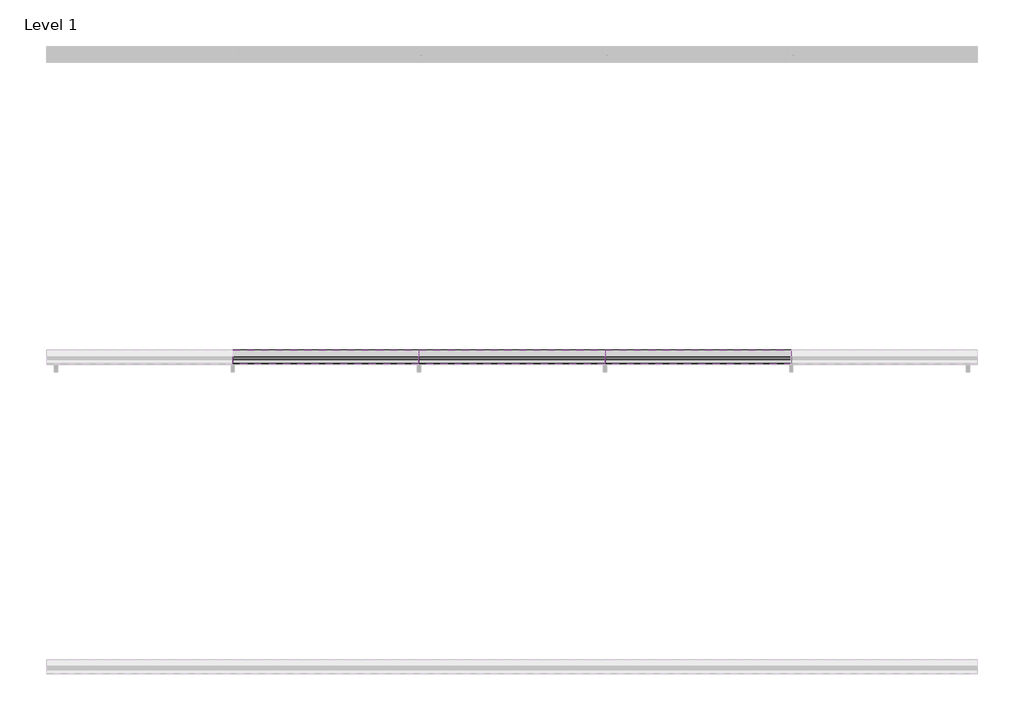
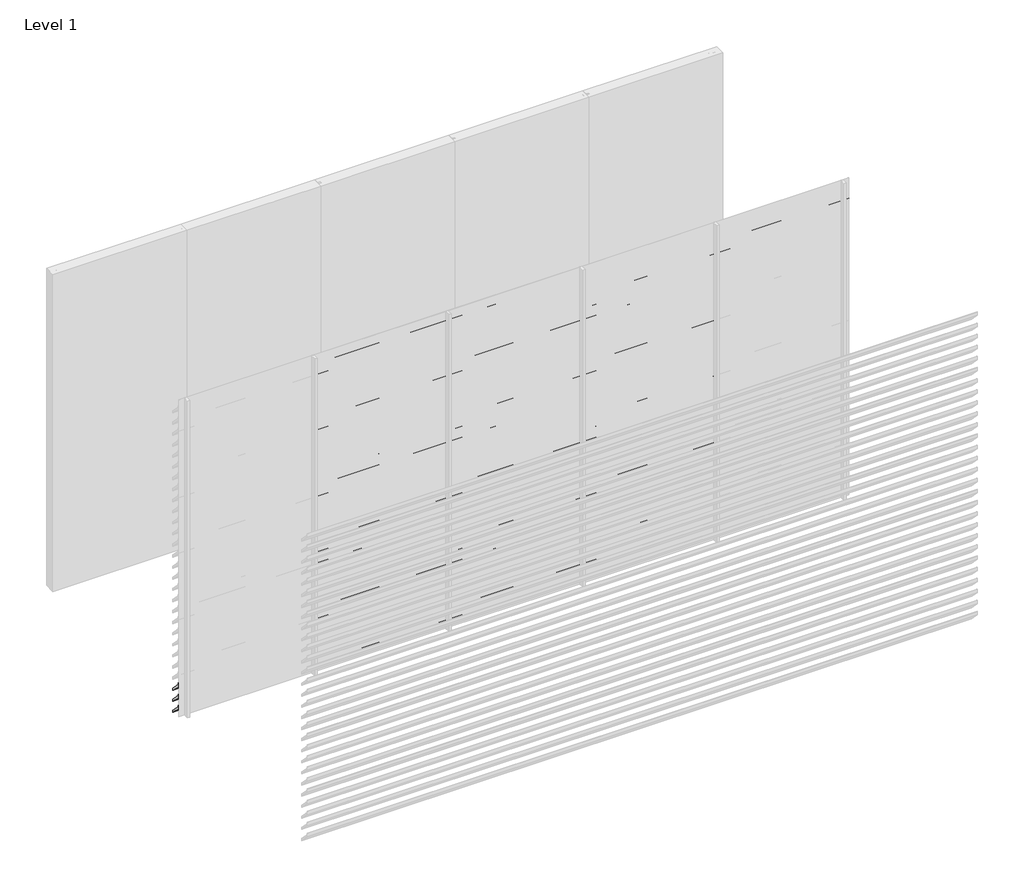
# One storey, part 6 of 8: 92 proxies.
"""IFC4 building model written with IfcOpenShell, lengths in millimetres."""

from ifc_helpers import new_model, si_unit, frame, origin, place, context, project, spatial, polyline, outline, extrude, element, save

model = new_model("IFC4")

# Units and contexts
model_context = context("Model", 3, world=origin())
ifc_project = project(units=[si_unit("LENGTHUNIT", "METRE", prefix="MILLI")], contexts=[model_context])

# Site, building, storey
site = spatial("IfcSite", under=ifc_project)
building = spatial("IfcBuilding", under=site)
storey = spatial("IfcBuildingStorey", under=building, Name="Level 1", Elevation=0.0)

# Proxies
placement = place(None, origin())
element("IfcBuildingElementProxy", 1, Name="Wall Sweeps", at=placement, inside=storey, context=model_context, shape_type="SweptSolid", body=[
    extrude(outline(polyline([(-5995.0, 315.0), (-5995.0, 302.0), (-5907.0, 214.0), (-5907.0, 193.0), (-5997.0, 283.0), (-5997.0, 315.0), (-5995.0, 315.0)])), frame((0.0, 0.0, 0.0), z_axis=(1.0, 0.0, 0.0), x_axis=(0.0, 1.0, 0.0)), (0.0, 0.0, 1.0), 1200.0),
])
element("IfcBuildingElementProxy", 2, Name="Wall Sweeps", at=placement, inside=storey, context=model_context, shape_type="SweptSolid", body=[
    extrude(outline(polyline([(-5995.0, 210.0), (-5995.0, 197.0), (-5907.0, 109.0), (-5907.0, 88.0), (-5997.0, 178.0), (-5997.0, 210.0), (-5995.0, 210.0)])), frame((0.0, 0.0, 0.0), z_axis=(1.0, 0.0, 0.0), x_axis=(0.0, 1.0, 0.0)), (0.0, 0.0, 1.0), 1200.0),
])
element("IfcBuildingElementProxy", 3, Name="Wall Sweeps", at=placement, inside=storey, context=model_context, shape_type="SweptSolid", body=[
    extrude(outline(polyline([(-5995.0, 105.0), (-5995.0, 92.0), (-5907.0, 4.0), (-5907.0, -17.0), (-5997.0, 73.0), (-5997.0, 105.0), (-5995.0, 105.0)])), frame((0.0, 0.0, 0.0), z_axis=(1.0, 0.0, 0.0), x_axis=(0.0, 1.0, 0.0)), (0.0, 0.0, 1.0), 1200.0),
])
element("IfcBuildingElementProxy", 4, Name="Wall Sweeps", at=placement, inside=storey, context=model_context, shape_type="SweptSolid", body=[
    extrude(outline(polyline([(-5995.0, 2940.0), (-5995.0, 2927.0), (-5907.0, 2839.0), (-5907.0, 2818.0), (-5997.0, 2908.0), (-5997.0, 2940.0), (-5995.0, 2940.0)])), frame((1200.0, 0.0, 0.0), z_axis=(1.0, 0.0, 0.0), x_axis=(0.0, 1.0, 0.0)), (0.0, 0.0, 1.0), 1200.0),
])
element("IfcBuildingElementProxy", 5, Name="Wall Sweeps", at=placement, inside=storey, context=model_context, shape_type="SweptSolid", body=[
    extrude(outline(polyline([(-5995.0, 2835.0), (-5995.0, 2822.0), (-5907.0, 2734.0), (-5907.0, 2713.0), (-5997.0, 2803.0), (-5997.0, 2835.0), (-5995.0, 2835.0)])), frame((1200.0, 0.0, 0.0), z_axis=(1.0, 0.0, 0.0), x_axis=(0.0, 1.0, 0.0)), (0.0, 0.0, 1.0), 1200.0),
])
element("IfcBuildingElementProxy", 6, Name="Wall Sweeps", at=placement, inside=storey, context=model_context, shape_type="SweptSolid", body=[
    extrude(outline(polyline([(-5995.0, 2730.0), (-5995.0, 2717.0), (-5907.0, 2629.0), (-5907.0, 2608.0), (-5997.0, 2698.0), (-5997.0, 2730.0), (-5995.0, 2730.0)])), frame((1200.0, 0.0, 0.0), z_axis=(1.0, 0.0, 0.0), x_axis=(0.0, 1.0, 0.0)), (0.0, 0.0, 1.0), 1200.0),
])
element("IfcBuildingElementProxy", 7, Name="Wall Sweeps", at=placement, inside=storey, context=model_context, shape_type="SweptSolid", body=[
    extrude(outline(polyline([(-5995.0, 2625.0), (-5995.0, 2612.0), (-5907.0, 2524.0), (-5907.0, 2503.0), (-5997.0, 2593.0), (-5997.0, 2625.0), (-5995.0, 2625.0)])), frame((1200.0, 0.0, 0.0), z_axis=(1.0, 0.0, 0.0), x_axis=(0.0, 1.0, 0.0)), (0.0, 0.0, 1.0), 1200.0),
])
element("IfcBuildingElementProxy", 8, Name="Wall Sweeps", at=placement, inside=storey, context=model_context, shape_type="SweptSolid", body=[
    extrude(outline(polyline([(-5995.0, 2520.0), (-5995.0, 2507.0), (-5907.0, 2419.0), (-5907.0, 2398.0), (-5997.0, 2488.0), (-5997.0, 2520.0), (-5995.0, 2520.0)])), frame((1200.0, 0.0, 0.0), z_axis=(1.0, 0.0, 0.0), x_axis=(0.0, 1.0, 0.0)), (0.0, 0.0, 1.0), 1200.0),
])
element("IfcBuildingElementProxy", 9, Name="Wall Sweeps", at=placement, inside=storey, context=model_context, shape_type="SweptSolid", body=[
    extrude(outline(polyline([(-5995.0, 2415.0), (-5995.0, 2402.0), (-5907.0, 2314.0), (-5907.0, 2293.0), (-5997.0, 2383.0), (-5997.0, 2415.0), (-5995.0, 2415.0)])), frame((1200.0, 0.0, 0.0), z_axis=(1.0, 0.0, 0.0), x_axis=(0.0, 1.0, 0.0)), (0.0, 0.0, 1.0), 1200.0),
])
element("IfcBuildingElementProxy", 10, Name="Wall Sweeps", at=placement, inside=storey, context=model_context, shape_type="SweptSolid", body=[
    extrude(outline(polyline([(-5995.0, 2310.0), (-5995.0, 2297.0), (-5907.0, 2209.0), (-5907.0, 2188.0), (-5997.0, 2278.0), (-5997.0, 2310.0), (-5995.0, 2310.0)])), frame((1200.0, 0.0, 0.0), z_axis=(1.0, 0.0, 0.0), x_axis=(0.0, 1.0, 0.0)), (0.0, 0.0, 1.0), 1200.0),
])
element("IfcBuildingElementProxy", 11, Name="Wall Sweeps", at=placement, inside=storey, context=model_context, shape_type="SweptSolid", body=[
    extrude(outline(polyline([(-5995.0, 2205.0), (-5995.0, 2192.0), (-5907.0, 2104.0), (-5907.0, 2083.0), (-5997.0, 2173.0), (-5997.0, 2205.0), (-5995.0, 2205.0)])), frame((1200.0, 0.0, 0.0), z_axis=(1.0, 0.0, 0.0), x_axis=(0.0, 1.0, 0.0)), (0.0, 0.0, 1.0), 1200.0),
])
element("IfcBuildingElementProxy", 12, Name="Wall Sweeps", at=placement, inside=storey, context=model_context, shape_type="SweptSolid", body=[
    extrude(outline(polyline([(-5995.0, 2100.0), (-5995.0, 2087.0), (-5907.0, 1999.0), (-5907.0, 1978.0), (-5997.0, 2068.0), (-5997.0, 2100.0), (-5995.0, 2100.0)])), frame((1200.0, 0.0, 0.0), z_axis=(1.0, 0.0, 0.0), x_axis=(0.0, 1.0, 0.0)), (0.0, 0.0, 1.0), 1200.0),
])
element("IfcBuildingElementProxy", 13, Name="Wall Sweeps", at=placement, inside=storey, context=model_context, shape_type="SweptSolid", body=[
    extrude(outline(polyline([(-5995.0, 1995.0), (-5995.0, 1982.0), (-5907.0, 1894.0), (-5907.0, 1873.0), (-5997.0, 1963.0), (-5997.0, 1995.0), (-5995.0, 1995.0)])), frame((1200.0, 0.0, 0.0), z_axis=(1.0, 0.0, 0.0), x_axis=(0.0, 1.0, 0.0)), (0.0, 0.0, 1.0), 1200.0),
])
element("IfcBuildingElementProxy", 14, Name="Wall Sweeps", at=placement, inside=storey, context=model_context, shape_type="SweptSolid", body=[
    extrude(outline(polyline([(-5995.0, 1890.0), (-5995.0, 1877.0), (-5907.0, 1789.0), (-5907.0, 1768.0), (-5997.0, 1858.0), (-5997.0, 1890.0), (-5995.0, 1890.0)])), frame((1200.0, 0.0, 0.0), z_axis=(1.0, 0.0, 0.0), x_axis=(0.0, 1.0, 0.0)), (0.0, 0.0, 1.0), 1200.0),
])
element("IfcBuildingElementProxy", 15, Name="Wall Sweeps", at=placement, inside=storey, context=model_context, shape_type="SweptSolid", body=[
    extrude(outline(polyline([(-5995.0, 1785.0), (-5995.0, 1772.0), (-5907.0, 1684.0), (-5907.0, 1663.0), (-5997.0, 1753.0), (-5997.0, 1785.0), (-5995.0, 1785.0)])), frame((1200.0, 0.0, 0.0), z_axis=(1.0, 0.0, 0.0), x_axis=(0.0, 1.0, 0.0)), (0.0, 0.0, 1.0), 1200.0),
])
element("IfcBuildingElementProxy", 16, Name="Wall Sweeps", at=placement, inside=storey, context=model_context, shape_type="SweptSolid", body=[
    extrude(outline(polyline([(-5995.0, 1680.0), (-5995.0, 1667.0), (-5907.0, 1579.0), (-5907.0, 1558.0), (-5997.0, 1648.0), (-5997.0, 1680.0), (-5995.0, 1680.0)])), frame((1200.0, 0.0, 0.0), z_axis=(1.0, 0.0, 0.0), x_axis=(0.0, 1.0, 0.0)), (0.0, 0.0, 1.0), 1200.0),
])
element("IfcBuildingElementProxy", 17, Name="Wall Sweeps", at=placement, inside=storey, context=model_context, shape_type="SweptSolid", body=[
    extrude(outline(polyline([(-5995.0, 1575.0), (-5995.0, 1562.0), (-5907.0, 1474.0), (-5907.0, 1453.0), (-5997.0, 1543.0), (-5997.0, 1575.0), (-5995.0, 1575.0)])), frame((1200.0, 0.0, 0.0), z_axis=(1.0, 0.0, 0.0), x_axis=(0.0, 1.0, 0.0)), (0.0, 0.0, 1.0), 1200.0),
])
element("IfcBuildingElementProxy", 18, Name="Wall Sweeps", at=placement, inside=storey, context=model_context, shape_type="SweptSolid", body=[
    extrude(outline(polyline([(-5995.0, 1470.0), (-5995.0, 1457.0), (-5907.0, 1369.0), (-5907.0, 1348.0), (-5997.0, 1438.0), (-5997.0, 1470.0), (-5995.0, 1470.0)])), frame((1200.0, 0.0, 0.0), z_axis=(1.0, 0.0, 0.0), x_axis=(0.0, 1.0, 0.0)), (0.0, 0.0, 1.0), 1200.0),
])
element("IfcBuildingElementProxy", 19, Name="Wall Sweeps", at=placement, inside=storey, context=model_context, shape_type="SweptSolid", body=[
    extrude(outline(polyline([(-5995.0, 1365.0), (-5995.0, 1352.0), (-5907.0, 1264.0), (-5907.0, 1243.0), (-5997.0, 1333.0), (-5997.0, 1365.0), (-5995.0, 1365.0)])), frame((1200.0, 0.0, 0.0), z_axis=(1.0, 0.0, 0.0), x_axis=(0.0, 1.0, 0.0)), (0.0, 0.0, 1.0), 1200.0),
])
element("IfcBuildingElementProxy", 20, Name="Wall Sweeps", at=placement, inside=storey, context=model_context, shape_type="SweptSolid", body=[
    extrude(outline(polyline([(-5995.0, 1260.0), (-5995.0, 1247.0), (-5907.0, 1159.0), (-5907.0, 1138.0), (-5997.0, 1228.0), (-5997.0, 1260.0), (-5995.0, 1260.0)])), frame((1200.0, 0.0, 0.0), z_axis=(1.0, 0.0, 0.0), x_axis=(0.0, 1.0, 0.0)), (0.0, 0.0, 1.0), 1200.0),
])
element("IfcBuildingElementProxy", 21, Name="Wall Sweeps", at=placement, inside=storey, context=model_context, shape_type="SweptSolid", body=[
    extrude(outline(polyline([(-5995.0, 1155.0), (-5995.0, 1142.0), (-5907.0, 1054.0), (-5907.0, 1033.0), (-5997.0, 1123.0), (-5997.0, 1155.0), (-5995.0, 1155.0)])), frame((1200.0, 0.0, 0.0), z_axis=(1.0, 0.0, 0.0), x_axis=(0.0, 1.0, 0.0)), (0.0, 0.0, 1.0), 1200.0),
])
element("IfcBuildingElementProxy", 22, Name="Wall Sweeps", at=placement, inside=storey, context=model_context, shape_type="SweptSolid", body=[
    extrude(outline(polyline([(-5995.0, 1050.0), (-5995.0, 1037.0), (-5907.0, 949.0), (-5907.0, 928.0), (-5997.0, 1018.0), (-5997.0, 1050.0), (-5995.0, 1050.0)])), frame((1200.0, 0.0, 0.0), z_axis=(1.0, 0.0, 0.0), x_axis=(0.0, 1.0, 0.0)), (0.0, 0.0, 1.0), 1200.0),
])
element("IfcBuildingElementProxy", 23, Name="Wall Sweeps", at=placement, inside=storey, context=model_context, shape_type="SweptSolid", body=[
    extrude(outline(polyline([(-5995.0, 945.0), (-5995.0, 932.0), (-5907.0, 844.0), (-5907.0, 823.0), (-5997.0, 913.0), (-5997.0, 945.0), (-5995.0, 945.0)])), frame((1200.0, 0.0, 0.0), z_axis=(1.0, 0.0, 0.0), x_axis=(0.0, 1.0, 0.0)), (0.0, 0.0, 1.0), 1200.0),
])
element("IfcBuildingElementProxy", 24, Name="Wall Sweeps", at=placement, inside=storey, context=model_context, shape_type="SweptSolid", body=[
    extrude(outline(polyline([(-5995.0, 840.0), (-5995.0, 827.0), (-5907.0, 739.0), (-5907.0, 718.0), (-5997.0, 808.0), (-5997.0, 840.0), (-5995.0, 840.0)])), frame((1200.0, 0.0, 0.0), z_axis=(1.0, 0.0, 0.0), x_axis=(0.0, 1.0, 0.0)), (0.0, 0.0, 1.0), 1200.0),
])
element("IfcBuildingElementProxy", 25, Name="Wall Sweeps", at=placement, inside=storey, context=model_context, shape_type="SweptSolid", body=[
    extrude(outline(polyline([(-5995.0, 735.0), (-5995.0, 722.0), (-5907.0, 634.0), (-5907.0, 613.0), (-5997.0, 703.0), (-5997.0, 735.0), (-5995.0, 735.0)])), frame((1200.0, 0.0, 0.0), z_axis=(1.0, 0.0, 0.0), x_axis=(0.0, 1.0, 0.0)), (0.0, 0.0, 1.0), 1200.0),
])
element("IfcBuildingElementProxy", 26, Name="Wall Sweeps", at=placement, inside=storey, context=model_context, shape_type="SweptSolid", body=[
    extrude(outline(polyline([(-5995.0, 630.0), (-5995.0, 617.0), (-5907.0, 529.0), (-5907.0, 508.0), (-5997.0, 598.0), (-5997.0, 630.0), (-5995.0, 630.0)])), frame((1200.0, 0.0, 0.0), z_axis=(1.0, 0.0, 0.0), x_axis=(0.0, 1.0, 0.0)), (0.0, 0.0, 1.0), 1200.0),
])
element("IfcBuildingElementProxy", 27, Name="Wall Sweeps", at=placement, inside=storey, context=model_context, shape_type="SweptSolid", body=[
    extrude(outline(polyline([(-5995.0, 525.0), (-5995.0, 512.0), (-5907.0, 424.0), (-5907.0, 403.0), (-5997.0, 493.0), (-5997.0, 525.0), (-5995.0, 525.0)])), frame((1200.0, 0.0, 0.0), z_axis=(1.0, 0.0, 0.0), x_axis=(0.0, 1.0, 0.0)), (0.0, 0.0, 1.0), 1200.0),
])
element("IfcBuildingElementProxy", 28, Name="Wall Sweeps", at=placement, inside=storey, context=model_context, shape_type="SweptSolid", body=[
    extrude(outline(polyline([(-5995.0, 420.0), (-5995.0, 407.0), (-5907.0, 319.0), (-5907.0, 298.0), (-5997.0, 388.0), (-5997.0, 420.0), (-5995.0, 420.0)])), frame((1200.0, 0.0, 0.0), z_axis=(1.0, 0.0, 0.0), x_axis=(0.0, 1.0, 0.0)), (0.0, 0.0, 1.0), 1200.0),
])
element("IfcBuildingElementProxy", 29, Name="Wall Sweeps", at=placement, inside=storey, context=model_context, shape_type="SweptSolid", body=[
    extrude(outline(polyline([(-5995.0, 315.0), (-5995.0, 302.0), (-5907.0, 214.0), (-5907.0, 193.0), (-5997.0, 283.0), (-5997.0, 315.0), (-5995.0, 315.0)])), frame((1200.0, 0.0, 0.0), z_axis=(1.0, 0.0, 0.0), x_axis=(0.0, 1.0, 0.0)), (0.0, 0.0, 1.0), 1200.0),
])
element("IfcBuildingElementProxy", 30, Name="Wall Sweeps", at=placement, inside=storey, context=model_context, shape_type="SweptSolid", body=[
    extrude(outline(polyline([(-5995.0, 210.0), (-5995.0, 197.0), (-5907.0, 109.0), (-5907.0, 88.0), (-5997.0, 178.0), (-5997.0, 210.0), (-5995.0, 210.0)])), frame((1200.0, 0.0, 0.0), z_axis=(1.0, 0.0, 0.0), x_axis=(0.0, 1.0, 0.0)), (0.0, 0.0, 1.0), 1200.0),
])
element("IfcBuildingElementProxy", 31, Name="Wall Sweeps", at=placement, inside=storey, context=model_context, shape_type="SweptSolid", body=[
    extrude(outline(polyline([(-5995.0, 105.0), (-5995.0, 92.0), (-5907.0, 4.0), (-5907.0, -17.0), (-5997.0, 73.0), (-5997.0, 105.0), (-5995.0, 105.0)])), frame((1200.0, 0.0, 0.0), z_axis=(1.0, 0.0, 0.0), x_axis=(0.0, 1.0, 0.0)), (0.0, 0.0, 1.0), 1200.0),
])
element("IfcBuildingElementProxy", 32, Name="Wall Sweeps", at=placement, inside=storey, context=model_context, shape_type="SweptSolid", body=[
    extrude(outline(polyline([(-5995.0, 2940.0), (-5995.0, 2927.0), (-5907.0, 2839.0), (-5907.0, 2818.0), (-5997.0, 2908.0), (-5997.0, 2940.0), (-5995.0, 2940.0)])), frame((2400.0, 0.0, 0.0), z_axis=(1.0, 0.0, 0.0), x_axis=(0.0, 1.0, 0.0)), (0.0, 0.0, 1.0), 1200.0),
])
element("IfcBuildingElementProxy", 33, Name="Wall Sweeps", at=placement, inside=storey, context=model_context, shape_type="SweptSolid", body=[
    extrude(outline(polyline([(-5995.0, 2835.0), (-5995.0, 2822.0), (-5907.0, 2734.0), (-5907.0, 2713.0), (-5997.0, 2803.0), (-5997.0, 2835.0), (-5995.0, 2835.0)])), frame((2400.0, 0.0, 0.0), z_axis=(1.0, 0.0, 0.0), x_axis=(0.0, 1.0, 0.0)), (0.0, 0.0, 1.0), 1200.0),
])
element("IfcBuildingElementProxy", 34, Name="Wall Sweeps", at=placement, inside=storey, context=model_context, shape_type="SweptSolid", body=[
    extrude(outline(polyline([(-5995.0, 2730.0), (-5995.0, 2717.0), (-5907.0, 2629.0), (-5907.0, 2608.0), (-5997.0, 2698.0), (-5997.0, 2730.0), (-5995.0, 2730.0)])), frame((2400.0, 0.0, 0.0), z_axis=(1.0, 0.0, 0.0), x_axis=(0.0, 1.0, 0.0)), (0.0, 0.0, 1.0), 1200.0),
])
element("IfcBuildingElementProxy", 35, Name="Wall Sweeps", at=placement, inside=storey, context=model_context, shape_type="SweptSolid", body=[
    extrude(outline(polyline([(-5995.0, 2625.0), (-5995.0, 2612.0), (-5907.0, 2524.0), (-5907.0, 2503.0), (-5997.0, 2593.0), (-5997.0, 2625.0), (-5995.0, 2625.0)])), frame((2400.0, 0.0, 0.0), z_axis=(1.0, 0.0, 0.0), x_axis=(0.0, 1.0, 0.0)), (0.0, 0.0, 1.0), 1200.0),
])
element("IfcBuildingElementProxy", 36, Name="Wall Sweeps", at=placement, inside=storey, context=model_context, shape_type="SweptSolid", body=[
    extrude(outline(polyline([(-5995.0, 2520.0), (-5995.0, 2507.0), (-5907.0, 2419.0), (-5907.0, 2398.0), (-5997.0, 2488.0), (-5997.0, 2520.0), (-5995.0, 2520.0)])), frame((2400.0, 0.0, 0.0), z_axis=(1.0, 0.0, 0.0), x_axis=(0.0, 1.0, 0.0)), (0.0, 0.0, 1.0), 1200.0),
])
element("IfcBuildingElementProxy", 37, Name="Wall Sweeps", at=placement, inside=storey, context=model_context, shape_type="SweptSolid", body=[
    extrude(outline(polyline([(-5995.0, 2415.0), (-5995.0, 2402.0), (-5907.0, 2314.0), (-5907.0, 2293.0), (-5997.0, 2383.0), (-5997.0, 2415.0), (-5995.0, 2415.0)])), frame((2400.0, 0.0, 0.0), z_axis=(1.0, 0.0, 0.0), x_axis=(0.0, 1.0, 0.0)), (0.0, 0.0, 1.0), 1200.0),
])
element("IfcBuildingElementProxy", 38, Name="Wall Sweeps", at=placement, inside=storey, context=model_context, shape_type="SweptSolid", body=[
    extrude(outline(polyline([(-5995.0, 2310.0), (-5995.0, 2297.0), (-5907.0, 2209.0), (-5907.0, 2188.0), (-5997.0, 2278.0), (-5997.0, 2310.0), (-5995.0, 2310.0)])), frame((2400.0, 0.0, 0.0), z_axis=(1.0, 0.0, 0.0), x_axis=(0.0, 1.0, 0.0)), (0.0, 0.0, 1.0), 1200.0),
])
element("IfcBuildingElementProxy", 39, Name="Wall Sweeps", at=placement, inside=storey, context=model_context, shape_type="SweptSolid", body=[
    extrude(outline(polyline([(-5995.0, 2205.0), (-5995.0, 2192.0), (-5907.0, 2104.0), (-5907.0, 2083.0), (-5997.0, 2173.0), (-5997.0, 2205.0), (-5995.0, 2205.0)])), frame((2400.0, 0.0, 0.0), z_axis=(1.0, 0.0, 0.0), x_axis=(0.0, 1.0, 0.0)), (0.0, 0.0, 1.0), 1200.0),
])
element("IfcBuildingElementProxy", 40, Name="Wall Sweeps", at=placement, inside=storey, context=model_context, shape_type="SweptSolid", body=[
    extrude(outline(polyline([(-5995.0, 2100.0), (-5995.0, 2087.0), (-5907.0, 1999.0), (-5907.0, 1978.0), (-5997.0, 2068.0), (-5997.0, 2100.0), (-5995.0, 2100.0)])), frame((2400.0, 0.0, 0.0), z_axis=(1.0, 0.0, 0.0), x_axis=(0.0, 1.0, 0.0)), (0.0, 0.0, 1.0), 1200.0),
])
element("IfcBuildingElementProxy", 41, Name="Wall Sweeps", at=placement, inside=storey, context=model_context, shape_type="SweptSolid", body=[
    extrude(outline(polyline([(-5995.0, 1995.0), (-5995.0, 1982.0), (-5907.0, 1894.0), (-5907.0, 1873.0), (-5997.0, 1963.0), (-5997.0, 1995.0), (-5995.0, 1995.0)])), frame((2400.0, 0.0, 0.0), z_axis=(1.0, 0.0, 0.0), x_axis=(0.0, 1.0, 0.0)), (0.0, 0.0, 1.0), 1200.0),
])
element("IfcBuildingElementProxy", 42, Name="Wall Sweeps", at=placement, inside=storey, context=model_context, shape_type="SweptSolid", body=[
    extrude(outline(polyline([(-5995.0, 1890.0), (-5995.0, 1877.0), (-5907.0, 1789.0), (-5907.0, 1768.0), (-5997.0, 1858.0), (-5997.0, 1890.0), (-5995.0, 1890.0)])), frame((2400.0, 0.0, 0.0), z_axis=(1.0, 0.0, 0.0), x_axis=(0.0, 1.0, 0.0)), (0.0, 0.0, 1.0), 1200.0),
])
element("IfcBuildingElementProxy", 43, Name="Wall Sweeps", at=placement, inside=storey, context=model_context, shape_type="SweptSolid", body=[
    extrude(outline(polyline([(-5995.0, 1785.0), (-5995.0, 1772.0), (-5907.0, 1684.0), (-5907.0, 1663.0), (-5997.0, 1753.0), (-5997.0, 1785.0), (-5995.0, 1785.0)])), frame((2400.0, 0.0, 0.0), z_axis=(1.0, 0.0, 0.0), x_axis=(0.0, 1.0, 0.0)), (0.0, 0.0, 1.0), 1200.0),
])
element("IfcBuildingElementProxy", 44, Name="Wall Sweeps", at=placement, inside=storey, context=model_context, shape_type="SweptSolid", body=[
    extrude(outline(polyline([(-5995.0, 1680.0), (-5995.0, 1667.0), (-5907.0, 1579.0), (-5907.0, 1558.0), (-5997.0, 1648.0), (-5997.0, 1680.0), (-5995.0, 1680.0)])), frame((2400.0, 0.0, 0.0), z_axis=(1.0, 0.0, 0.0), x_axis=(0.0, 1.0, 0.0)), (0.0, 0.0, 1.0), 1200.0),
])
element("IfcBuildingElementProxy", 45, Name="Wall Sweeps", at=placement, inside=storey, context=model_context, shape_type="SweptSolid", body=[
    extrude(outline(polyline([(-5995.0, 1575.0), (-5995.0, 1562.0), (-5907.0, 1474.0), (-5907.0, 1453.0), (-5997.0, 1543.0), (-5997.0, 1575.0), (-5995.0, 1575.0)])), frame((2400.0, 0.0, 0.0), z_axis=(1.0, 0.0, 0.0), x_axis=(0.0, 1.0, 0.0)), (0.0, 0.0, 1.0), 1200.0),
])
element("IfcBuildingElementProxy", 46, Name="Wall Sweeps", at=placement, inside=storey, context=model_context, shape_type="SweptSolid", body=[
    extrude(outline(polyline([(-5995.0, 1470.0), (-5995.0, 1457.0), (-5907.0, 1369.0), (-5907.0, 1348.0), (-5997.0, 1438.0), (-5997.0, 1470.0), (-5995.0, 1470.0)])), frame((2400.0, 0.0, 0.0), z_axis=(1.0, 0.0, 0.0), x_axis=(0.0, 1.0, 0.0)), (0.0, 0.0, 1.0), 1200.0),
])
element("IfcBuildingElementProxy", 47, Name="Wall Sweeps", at=placement, inside=storey, context=model_context, shape_type="SweptSolid", body=[
    extrude(outline(polyline([(-5995.0, 1365.0), (-5995.0, 1352.0), (-5907.0, 1264.0), (-5907.0, 1243.0), (-5997.0, 1333.0), (-5997.0, 1365.0), (-5995.0, 1365.0)])), frame((2400.0, 0.0, 0.0), z_axis=(1.0, 0.0, 0.0), x_axis=(0.0, 1.0, 0.0)), (0.0, 0.0, 1.0), 1200.0),
])
element("IfcBuildingElementProxy", 48, Name="Wall Sweeps", at=placement, inside=storey, context=model_context, shape_type="SweptSolid", body=[
    extrude(outline(polyline([(-5995.0, 1260.0), (-5995.0, 1247.0), (-5907.0, 1159.0), (-5907.0, 1138.0), (-5997.0, 1228.0), (-5997.0, 1260.0), (-5995.0, 1260.0)])), frame((2400.0, 0.0, 0.0), z_axis=(1.0, 0.0, 0.0), x_axis=(0.0, 1.0, 0.0)), (0.0, 0.0, 1.0), 1200.0),
])
element("IfcBuildingElementProxy", 49, Name="Wall Sweeps", at=placement, inside=storey, context=model_context, shape_type="SweptSolid", body=[
    extrude(outline(polyline([(-5995.0, 1155.0), (-5995.0, 1142.0), (-5907.0, 1054.0), (-5907.0, 1033.0), (-5997.0, 1123.0), (-5997.0, 1155.0), (-5995.0, 1155.0)])), frame((2400.0, 0.0, 0.0), z_axis=(1.0, 0.0, 0.0), x_axis=(0.0, 1.0, 0.0)), (0.0, 0.0, 1.0), 1200.0),
])
element("IfcBuildingElementProxy", 50, Name="Wall Sweeps", at=placement, inside=storey, context=model_context, shape_type="SweptSolid", body=[
    extrude(outline(polyline([(-5995.0, 1050.0), (-5995.0, 1037.0), (-5907.0, 949.0), (-5907.0, 928.0), (-5997.0, 1018.0), (-5997.0, 1050.0), (-5995.0, 1050.0)])), frame((2400.0, 0.0, 0.0), z_axis=(1.0, 0.0, 0.0), x_axis=(0.0, 1.0, 0.0)), (0.0, 0.0, 1.0), 1200.0),
])
element("IfcBuildingElementProxy", 51, Name="Wall Sweeps", at=placement, inside=storey, context=model_context, shape_type="SweptSolid", body=[
    extrude(outline(polyline([(-5995.0, 945.0), (-5995.0, 932.0), (-5907.0, 844.0), (-5907.0, 823.0), (-5997.0, 913.0), (-5997.0, 945.0), (-5995.0, 945.0)])), frame((2400.0, 0.0, 0.0), z_axis=(1.0, 0.0, 0.0), x_axis=(0.0, 1.0, 0.0)), (0.0, 0.0, 1.0), 1200.0),
])
element("IfcBuildingElementProxy", 52, Name="Wall Sweeps", at=placement, inside=storey, context=model_context, shape_type="SweptSolid", body=[
    extrude(outline(polyline([(-5995.0, 840.0), (-5995.0, 827.0), (-5907.0, 739.0), (-5907.0, 718.0), (-5997.0, 808.0), (-5997.0, 840.0), (-5995.0, 840.0)])), frame((2400.0, 0.0, 0.0), z_axis=(1.0, 0.0, 0.0), x_axis=(0.0, 1.0, 0.0)), (0.0, 0.0, 1.0), 1200.0),
])
element("IfcBuildingElementProxy", 53, Name="Wall Sweeps", at=placement, inside=storey, context=model_context, shape_type="SweptSolid", body=[
    extrude(outline(polyline([(-5995.0, 735.0), (-5995.0, 722.0), (-5907.0, 634.0), (-5907.0, 613.0), (-5997.0, 703.0), (-5997.0, 735.0), (-5995.0, 735.0)])), frame((2400.0, 0.0, 0.0), z_axis=(1.0, 0.0, 0.0), x_axis=(0.0, 1.0, 0.0)), (0.0, 0.0, 1.0), 1200.0),
])
element("IfcBuildingElementProxy", 54, Name="Wall Sweeps", at=placement, inside=storey, context=model_context, shape_type="SweptSolid", body=[
    extrude(outline(polyline([(-5995.0, 630.0), (-5995.0, 617.0), (-5907.0, 529.0), (-5907.0, 508.0), (-5997.0, 598.0), (-5997.0, 630.0), (-5995.0, 630.0)])), frame((2400.0, 0.0, 0.0), z_axis=(1.0, 0.0, 0.0), x_axis=(0.0, 1.0, 0.0)), (0.0, 0.0, 1.0), 1200.0),
])
element("IfcBuildingElementProxy", 55, Name="Wall Sweeps", at=placement, inside=storey, context=model_context, shape_type="SweptSolid", body=[
    extrude(outline(polyline([(-5995.0, 525.0), (-5995.0, 512.0), (-5907.0, 424.0), (-5907.0, 403.0), (-5997.0, 493.0), (-5997.0, 525.0), (-5995.0, 525.0)])), frame((2400.0, 0.0, 0.0), z_axis=(1.0, 0.0, 0.0), x_axis=(0.0, 1.0, 0.0)), (0.0, 0.0, 1.0), 1200.0),
])
element("IfcBuildingElementProxy", 56, Name="Wall Sweeps", at=placement, inside=storey, context=model_context, shape_type="SweptSolid", body=[
    extrude(outline(polyline([(-5995.0, 420.0), (-5995.0, 407.0), (-5907.0, 319.0), (-5907.0, 298.0), (-5997.0, 388.0), (-5997.0, 420.0), (-5995.0, 420.0)])), frame((2400.0, 0.0, 0.0), z_axis=(1.0, 0.0, 0.0), x_axis=(0.0, 1.0, 0.0)), (0.0, 0.0, 1.0), 1200.0),
])
element("IfcBuildingElementProxy", 57, Name="Wall Sweeps", at=placement, inside=storey, context=model_context, shape_type="SweptSolid", body=[
    extrude(outline(polyline([(-5995.0, 315.0), (-5995.0, 302.0), (-5907.0, 214.0), (-5907.0, 193.0), (-5997.0, 283.0), (-5997.0, 315.0), (-5995.0, 315.0)])), frame((2400.0, 0.0, 0.0), z_axis=(1.0, 0.0, 0.0), x_axis=(0.0, 1.0, 0.0)), (0.0, 0.0, 1.0), 1200.0),
])
element("IfcBuildingElementProxy", 58, Name="Wall Sweeps", at=placement, inside=storey, context=model_context, shape_type="SweptSolid", body=[
    extrude(outline(polyline([(-5995.0, 210.0), (-5995.0, 197.0), (-5907.0, 109.0), (-5907.0, 88.0), (-5997.0, 178.0), (-5997.0, 210.0), (-5995.0, 210.0)])), frame((2400.0, 0.0, 0.0), z_axis=(1.0, 0.0, 0.0), x_axis=(0.0, 1.0, 0.0)), (0.0, 0.0, 1.0), 1200.0),
])
element("IfcBuildingElementProxy", 59, Name="Wall Sweeps", at=placement, inside=storey, context=model_context, shape_type="SweptSolid", body=[
    extrude(outline(polyline([(-5995.0, 105.0), (-5995.0, 92.0), (-5907.0, 4.0), (-5907.0, -17.0), (-5997.0, 73.0), (-5997.0, 105.0), (-5995.0, 105.0)])), frame((2400.0, 0.0, 0.0), z_axis=(1.0, 0.0, 0.0), x_axis=(0.0, 1.0, 0.0)), (0.0, 0.0, 1.0), 1200.0),
])
element("IfcBuildingElementProxy", 60, Name="Wall Sweeps", at=placement, inside=storey, context=model_context, shape_type="SweptSolid", body=[
    extrude(outline(polyline([(-5995.0, 2940.0), (-5995.0, 2927.0), (-5907.0, 2839.0), (-5907.0, 2818.0), (-5997.0, 2908.0), (-5997.0, 2940.0), (-5995.0, 2940.0)])), frame((3600.0, 0.0, 0.0), z_axis=(1.0, 0.0, 0.0), x_axis=(0.0, 1.0, 0.0)), (0.0, 0.0, 1.0), 1200.0),
])
element("IfcBuildingElementProxy", 61, Name="Wall Sweeps", at=placement, inside=storey, context=model_context, shape_type="SweptSolid", body=[
    extrude(outline(polyline([(-5995.0, 2835.0), (-5995.0, 2822.0), (-5907.0, 2734.0), (-5907.0, 2713.0), (-5997.0, 2803.0), (-5997.0, 2835.0), (-5995.0, 2835.0)])), frame((3600.0, 0.0, 0.0), z_axis=(1.0, 0.0, 0.0), x_axis=(0.0, 1.0, 0.0)), (0.0, 0.0, 1.0), 1200.0),
])
element("IfcBuildingElementProxy", 62, Name="Wall Sweeps", at=placement, inside=storey, context=model_context, shape_type="SweptSolid", body=[
    extrude(outline(polyline([(-5995.0, 2730.0), (-5995.0, 2717.0), (-5907.0, 2629.0), (-5907.0, 2608.0), (-5997.0, 2698.0), (-5997.0, 2730.0), (-5995.0, 2730.0)])), frame((3600.0, 0.0, 0.0), z_axis=(1.0, 0.0, 0.0), x_axis=(0.0, 1.0, 0.0)), (0.0, 0.0, 1.0), 1200.0),
])
element("IfcBuildingElementProxy", 63, Name="Wall Sweeps", at=placement, inside=storey, context=model_context, shape_type="SweptSolid", body=[
    extrude(outline(polyline([(-5995.0, 2625.0), (-5995.0, 2612.0), (-5907.0, 2524.0), (-5907.0, 2503.0), (-5997.0, 2593.0), (-5997.0, 2625.0), (-5995.0, 2625.0)])), frame((3600.0, 0.0, 0.0), z_axis=(1.0, 0.0, 0.0), x_axis=(0.0, 1.0, 0.0)), (0.0, 0.0, 1.0), 1200.0),
])
element("IfcBuildingElementProxy", 64, Name="Wall Sweeps", at=placement, inside=storey, context=model_context, shape_type="SweptSolid", body=[
    extrude(outline(polyline([(-5995.0, 2520.0), (-5995.0, 2507.0), (-5907.0, 2419.0), (-5907.0, 2398.0), (-5997.0, 2488.0), (-5997.0, 2520.0), (-5995.0, 2520.0)])), frame((3600.0, 0.0, 0.0), z_axis=(1.0, 0.0, 0.0), x_axis=(0.0, 1.0, 0.0)), (0.0, 0.0, 1.0), 1200.0),
])
element("IfcBuildingElementProxy", 65, Name="Wall Sweeps", at=placement, inside=storey, context=model_context, shape_type="SweptSolid", body=[
    extrude(outline(polyline([(-5995.0, 2415.0), (-5995.0, 2402.0), (-5907.0, 2314.0), (-5907.0, 2293.0), (-5997.0, 2383.0), (-5997.0, 2415.0), (-5995.0, 2415.0)])), frame((3600.0, 0.0, 0.0), z_axis=(1.0, 0.0, 0.0), x_axis=(0.0, 1.0, 0.0)), (0.0, 0.0, 1.0), 1200.0),
])
element("IfcBuildingElementProxy", 66, Name="Wall Sweeps", at=placement, inside=storey, context=model_context, shape_type="SweptSolid", body=[
    extrude(outline(polyline([(-5995.0, 2310.0), (-5995.0, 2297.0), (-5907.0, 2209.0), (-5907.0, 2188.0), (-5997.0, 2278.0), (-5997.0, 2310.0), (-5995.0, 2310.0)])), frame((3600.0, 0.0, 0.0), z_axis=(1.0, 0.0, 0.0), x_axis=(0.0, 1.0, 0.0)), (0.0, 0.0, 1.0), 1200.0),
])
element("IfcBuildingElementProxy", 67, Name="Wall Sweeps", at=placement, inside=storey, context=model_context, shape_type="SweptSolid", body=[
    extrude(outline(polyline([(-5995.0, 2205.0), (-5995.0, 2192.0), (-5907.0, 2104.0), (-5907.0, 2083.0), (-5997.0, 2173.0), (-5997.0, 2205.0), (-5995.0, 2205.0)])), frame((3600.0, 0.0, 0.0), z_axis=(1.0, 0.0, 0.0), x_axis=(0.0, 1.0, 0.0)), (0.0, 0.0, 1.0), 1200.0),
])
element("IfcBuildingElementProxy", 68, Name="Wall Sweeps", at=placement, inside=storey, context=model_context, shape_type="SweptSolid", body=[
    extrude(outline(polyline([(-5995.0, 2100.0), (-5995.0, 2087.0), (-5907.0, 1999.0), (-5907.0, 1978.0), (-5997.0, 2068.0), (-5997.0, 2100.0), (-5995.0, 2100.0)])), frame((3600.0, 0.0, 0.0), z_axis=(1.0, 0.0, 0.0), x_axis=(0.0, 1.0, 0.0)), (0.0, 0.0, 1.0), 1200.0),
])
element("IfcBuildingElementProxy", 69, Name="Wall Sweeps", at=placement, inside=storey, context=model_context, shape_type="SweptSolid", body=[
    extrude(outline(polyline([(-5995.0, 1995.0), (-5995.0, 1982.0), (-5907.0, 1894.0), (-5907.0, 1873.0), (-5997.0, 1963.0), (-5997.0, 1995.0), (-5995.0, 1995.0)])), frame((3600.0, 0.0, 0.0), z_axis=(1.0, 0.0, 0.0), x_axis=(0.0, 1.0, 0.0)), (0.0, 0.0, 1.0), 1200.0),
])
element("IfcBuildingElementProxy", 70, Name="Wall Sweeps", at=placement, inside=storey, context=model_context, shape_type="SweptSolid", body=[
    extrude(outline(polyline([(-5995.0, 1890.0), (-5995.0, 1877.0), (-5907.0, 1789.0), (-5907.0, 1768.0), (-5997.0, 1858.0), (-5997.0, 1890.0), (-5995.0, 1890.0)])), frame((3600.0, 0.0, 0.0), z_axis=(1.0, 0.0, 0.0), x_axis=(0.0, 1.0, 0.0)), (0.0, 0.0, 1.0), 1200.0),
])
element("IfcBuildingElementProxy", 71, Name="Wall Sweeps", at=placement, inside=storey, context=model_context, shape_type="SweptSolid", body=[
    extrude(outline(polyline([(-5995.0, 1785.0), (-5995.0, 1772.0), (-5907.0, 1684.0), (-5907.0, 1663.0), (-5997.0, 1753.0), (-5997.0, 1785.0), (-5995.0, 1785.0)])), frame((3600.0, 0.0, 0.0), z_axis=(1.0, 0.0, 0.0), x_axis=(0.0, 1.0, 0.0)), (0.0, 0.0, 1.0), 1200.0),
])
element("IfcBuildingElementProxy", 72, Name="Wall Sweeps", at=placement, inside=storey, context=model_context, shape_type="SweptSolid", body=[
    extrude(outline(polyline([(-5995.0, 1680.0), (-5995.0, 1667.0), (-5907.0, 1579.0), (-5907.0, 1558.0), (-5997.0, 1648.0), (-5997.0, 1680.0), (-5995.0, 1680.0)])), frame((3600.0, 0.0, 0.0), z_axis=(1.0, 0.0, 0.0), x_axis=(0.0, 1.0, 0.0)), (0.0, 0.0, 1.0), 1200.0),
])
element("IfcBuildingElementProxy", 73, Name="Wall Sweeps", at=placement, inside=storey, context=model_context, shape_type="SweptSolid", body=[
    extrude(outline(polyline([(-5995.0, 1575.0), (-5995.0, 1562.0), (-5907.0, 1474.0), (-5907.0, 1453.0), (-5997.0, 1543.0), (-5997.0, 1575.0), (-5995.0, 1575.0)])), frame((3600.0, 0.0, 0.0), z_axis=(1.0, 0.0, 0.0), x_axis=(0.0, 1.0, 0.0)), (0.0, 0.0, 1.0), 1200.0),
])
element("IfcBuildingElementProxy", 74, Name="Wall Sweeps", at=placement, inside=storey, context=model_context, shape_type="SweptSolid", body=[
    extrude(outline(polyline([(-5995.0, 1470.0), (-5995.0, 1457.0), (-5907.0, 1369.0), (-5907.0, 1348.0), (-5997.0, 1438.0), (-5997.0, 1470.0), (-5995.0, 1470.0)])), frame((3600.0, 0.0, 0.0), z_axis=(1.0, 0.0, 0.0), x_axis=(0.0, 1.0, 0.0)), (0.0, 0.0, 1.0), 1200.0),
])
element("IfcBuildingElementProxy", 75, Name="Wall Sweeps", at=placement, inside=storey, context=model_context, shape_type="SweptSolid", body=[
    extrude(outline(polyline([(-5995.0, 1365.0), (-5995.0, 1352.0), (-5907.0, 1264.0), (-5907.0, 1243.0), (-5997.0, 1333.0), (-5997.0, 1365.0), (-5995.0, 1365.0)])), frame((3600.0, 0.0, 0.0), z_axis=(1.0, 0.0, 0.0), x_axis=(0.0, 1.0, 0.0)), (0.0, 0.0, 1.0), 1200.0),
])
element("IfcBuildingElementProxy", 76, Name="Wall Sweeps", at=placement, inside=storey, context=model_context, shape_type="SweptSolid", body=[
    extrude(outline(polyline([(-5995.0, 1260.0), (-5995.0, 1247.0), (-5907.0, 1159.0), (-5907.0, 1138.0), (-5997.0, 1228.0), (-5997.0, 1260.0), (-5995.0, 1260.0)])), frame((3600.0, 0.0, 0.0), z_axis=(1.0, 0.0, 0.0), x_axis=(0.0, 1.0, 0.0)), (0.0, 0.0, 1.0), 1200.0),
])
element("IfcBuildingElementProxy", 77, Name="Wall Sweeps", at=placement, inside=storey, context=model_context, shape_type="SweptSolid", body=[
    extrude(outline(polyline([(-5995.0, 1155.0), (-5995.0, 1142.0), (-5907.0, 1054.0), (-5907.0, 1033.0), (-5997.0, 1123.0), (-5997.0, 1155.0), (-5995.0, 1155.0)])), frame((3600.0, 0.0, 0.0), z_axis=(1.0, 0.0, 0.0), x_axis=(0.0, 1.0, 0.0)), (0.0, 0.0, 1.0), 1200.0),
])
element("IfcBuildingElementProxy", 78, Name="Wall Sweeps", at=placement, inside=storey, context=model_context, shape_type="SweptSolid", body=[
    extrude(outline(polyline([(-5995.0, 1050.0), (-5995.0, 1037.0), (-5907.0, 949.0), (-5907.0, 928.0), (-5997.0, 1018.0), (-5997.0, 1050.0), (-5995.0, 1050.0)])), frame((3600.0, 0.0, 0.0), z_axis=(1.0, 0.0, 0.0), x_axis=(0.0, 1.0, 0.0)), (0.0, 0.0, 1.0), 1200.0),
])
element("IfcBuildingElementProxy", 79, Name="Wall Sweeps", at=placement, inside=storey, context=model_context, shape_type="SweptSolid", body=[
    extrude(outline(polyline([(-5995.0, 945.0), (-5995.0, 932.0), (-5907.0, 844.0), (-5907.0, 823.0), (-5997.0, 913.0), (-5997.0, 945.0), (-5995.0, 945.0)])), frame((3600.0, 0.0, 0.0), z_axis=(1.0, 0.0, 0.0), x_axis=(0.0, 1.0, 0.0)), (0.0, 0.0, 1.0), 1200.0),
])
element("IfcBuildingElementProxy", 80, Name="Wall Sweeps", at=placement, inside=storey, context=model_context, shape_type="SweptSolid", body=[
    extrude(outline(polyline([(-5995.0, 840.0), (-5995.0, 827.0), (-5907.0, 739.0), (-5907.0, 718.0), (-5997.0, 808.0), (-5997.0, 840.0), (-5995.0, 840.0)])), frame((3600.0, 0.0, 0.0), z_axis=(1.0, 0.0, 0.0), x_axis=(0.0, 1.0, 0.0)), (0.0, 0.0, 1.0), 1200.0),
])
element("IfcBuildingElementProxy", 81, Name="Wall Sweeps", at=placement, inside=storey, context=model_context, shape_type="SweptSolid", body=[
    extrude(outline(polyline([(-5995.0, 735.0), (-5995.0, 722.0), (-5907.0, 634.0), (-5907.0, 613.0), (-5997.0, 703.0), (-5997.0, 735.0), (-5995.0, 735.0)])), frame((3600.0, 0.0, 0.0), z_axis=(1.0, 0.0, 0.0), x_axis=(0.0, 1.0, 0.0)), (0.0, 0.0, 1.0), 1200.0),
])
element("IfcBuildingElementProxy", 82, Name="Wall Sweeps", at=placement, inside=storey, context=model_context, shape_type="SweptSolid", body=[
    extrude(outline(polyline([(-5995.0, 630.0), (-5995.0, 617.0), (-5907.0, 529.0), (-5907.0, 508.0), (-5997.0, 598.0), (-5997.0, 630.0), (-5995.0, 630.0)])), frame((3600.0, 0.0, 0.0), z_axis=(1.0, 0.0, 0.0), x_axis=(0.0, 1.0, 0.0)), (0.0, 0.0, 1.0), 1200.0),
])
element("IfcBuildingElementProxy", 83, Name="Wall Sweeps", at=placement, inside=storey, context=model_context, shape_type="SweptSolid", body=[
    extrude(outline(polyline([(-5995.0, 525.0), (-5995.0, 512.0), (-5907.0, 424.0), (-5907.0, 403.0), (-5997.0, 493.0), (-5997.0, 525.0), (-5995.0, 525.0)])), frame((3600.0, 0.0, 0.0), z_axis=(1.0, 0.0, 0.0), x_axis=(0.0, 1.0, 0.0)), (0.0, 0.0, 1.0), 1200.0),
])
element("IfcBuildingElementProxy", 84, Name="Wall Sweeps", at=placement, inside=storey, context=model_context, shape_type="SweptSolid", body=[
    extrude(outline(polyline([(-5995.0, 420.0), (-5995.0, 407.0), (-5907.0, 319.0), (-5907.0, 298.0), (-5997.0, 388.0), (-5997.0, 420.0), (-5995.0, 420.0)])), frame((3600.0, 0.0, 0.0), z_axis=(1.0, 0.0, 0.0), x_axis=(0.0, 1.0, 0.0)), (0.0, 0.0, 1.0), 1200.0),
])
element("IfcBuildingElementProxy", 85, Name="Wall Sweeps", at=placement, inside=storey, context=model_context, shape_type="SweptSolid", body=[
    extrude(outline(polyline([(-5995.0, 315.0), (-5995.0, 302.0), (-5907.0, 214.0), (-5907.0, 193.0), (-5997.0, 283.0), (-5997.0, 315.0), (-5995.0, 315.0)])), frame((3600.0, 0.0, 0.0), z_axis=(1.0, 0.0, 0.0), x_axis=(0.0, 1.0, 0.0)), (0.0, 0.0, 1.0), 1200.0),
])
element("IfcBuildingElementProxy", 86, Name="Wall Sweeps", at=placement, inside=storey, context=model_context, shape_type="SweptSolid", body=[
    extrude(outline(polyline([(-5995.0, 210.0), (-5995.0, 197.0), (-5907.0, 109.0), (-5907.0, 88.0), (-5997.0, 178.0), (-5997.0, 210.0), (-5995.0, 210.0)])), frame((3600.0, 0.0, 0.0), z_axis=(1.0, 0.0, 0.0), x_axis=(0.0, 1.0, 0.0)), (0.0, 0.0, 1.0), 1200.0),
])
element("IfcBuildingElementProxy", 87, Name="Wall Sweeps", at=placement, inside=storey, context=model_context, shape_type="SweptSolid", body=[
    extrude(outline(polyline([(-5995.0, 105.0), (-5995.0, 92.0), (-5907.0, 4.0), (-5907.0, -17.0), (-5997.0, 73.0), (-5997.0, 105.0), (-5995.0, 105.0)])), frame((3600.0, 0.0, 0.0), z_axis=(1.0, 0.0, 0.0), x_axis=(0.0, 1.0, 0.0)), (0.0, 0.0, 1.0), 1200.0),
])
element("IfcBuildingElementProxy", 88, Name="Wall Sweeps", at=placement, inside=storey, context=model_context, shape_type="SweptSolid", body=[
    extrude(outline(polyline([(-5995.0, 2940.0), (-5995.0, 2927.0), (-5907.0, 2839.0), (-5907.0, 2818.0), (-5997.0, 2908.0), (-5997.0, 2940.0), (-5995.0, 2940.0)])), frame((4800.0, 0.0, 0.0), z_axis=(1.0, 0.0, 0.0), x_axis=(0.0, 1.0, 0.0)), (0.0, 0.0, 1.0), 1200.0),
])
element("IfcBuildingElementProxy", 89, Name="Wall Sweeps", at=placement, inside=storey, context=model_context, shape_type="SweptSolid", body=[
    extrude(outline(polyline([(-5995.0, 2835.0), (-5995.0, 2822.0), (-5907.0, 2734.0), (-5907.0, 2713.0), (-5997.0, 2803.0), (-5997.0, 2835.0), (-5995.0, 2835.0)])), frame((4800.0, 0.0, 0.0), z_axis=(1.0, 0.0, 0.0), x_axis=(0.0, 1.0, 0.0)), (0.0, 0.0, 1.0), 1200.0),
])
element("IfcBuildingElementProxy", 90, Name="Wall Sweeps", at=placement, inside=storey, context=model_context, shape_type="SweptSolid", body=[
    extrude(outline(polyline([(-5995.0, 2730.0), (-5995.0, 2717.0), (-5907.0, 2629.0), (-5907.0, 2608.0), (-5997.0, 2698.0), (-5997.0, 2730.0), (-5995.0, 2730.0)])), frame((4800.0, 0.0, 0.0), z_axis=(1.0, 0.0, 0.0), x_axis=(0.0, 1.0, 0.0)), (0.0, 0.0, 1.0), 1200.0),
])
element("IfcBuildingElementProxy", 91, Name="Wall Sweeps", at=placement, inside=storey, context=model_context, shape_type="SweptSolid", body=[
    extrude(outline(polyline([(-5995.0, 2625.0), (-5995.0, 2612.0), (-5907.0, 2524.0), (-5907.0, 2503.0), (-5997.0, 2593.0), (-5997.0, 2625.0), (-5995.0, 2625.0)])), frame((4800.0, 0.0, 0.0), z_axis=(1.0, 0.0, 0.0), x_axis=(0.0, 1.0, 0.0)), (0.0, 0.0, 1.0), 1200.0),
])
element("IfcBuildingElementProxy", 92, Name="Wall Sweeps", at=placement, inside=storey, context=model_context, shape_type="SweptSolid", body=[
    extrude(outline(polyline([(-5995.0, 2520.0), (-5995.0, 2507.0), (-5907.0, 2419.0), (-5907.0, 2398.0), (-5997.0, 2488.0), (-5997.0, 2520.0), (-5995.0, 2520.0)])), frame((4800.0, 0.0, 0.0), z_axis=(1.0, 0.0, 0.0), x_axis=(0.0, 1.0, 0.0)), (0.0, 0.0, 1.0), 1200.0),
])

save(model, "model.ifc")
